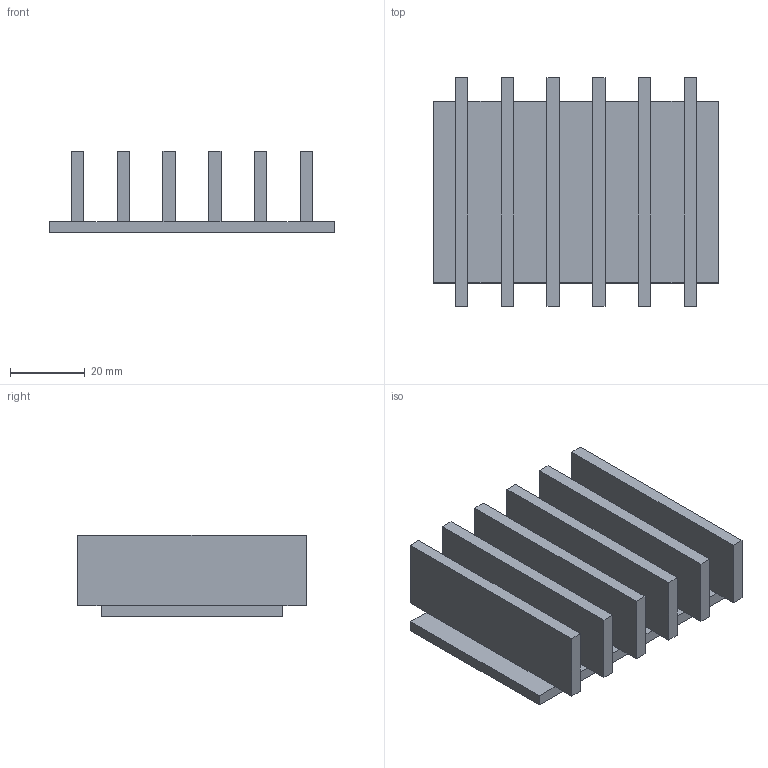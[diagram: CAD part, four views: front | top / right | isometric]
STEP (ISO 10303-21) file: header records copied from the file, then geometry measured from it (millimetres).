
FILE_DESCRIPTION(('Mechanical CAD reference from nasji.com'),'2;1');
FILE_NAME('NASJI.step','',(''),(''),'','NASJI distribution','');
FILE_SCHEMA(('AUTOMOTIVE_DESIGN { 1 0 10303 214 1 1 1 1 }'));
Length unit declared in the file: millimetre
Products named in the file (1): Open CASCADE STEP translator 7.8 102
Bounding box: 76.68 x 61.34 x 21.9 mm (x, y, z)
Volume: 34182.1 mm3; surface area: 23394.8 mm2
Topology: 1 solids, 1 shells, 54 faces, 132 edges, 80 vertices
Faces by surface type: plane 54
Entity records: 3250 total; most frequent: CARTESIAN_POINT 531, DIRECTION 506, LINE 396, VECTOR 396, ORIENTED_EDGE 264, PCURVE 264, DEFINITIONAL_REPRESENTATION 264, EDGE_CURVE 132
